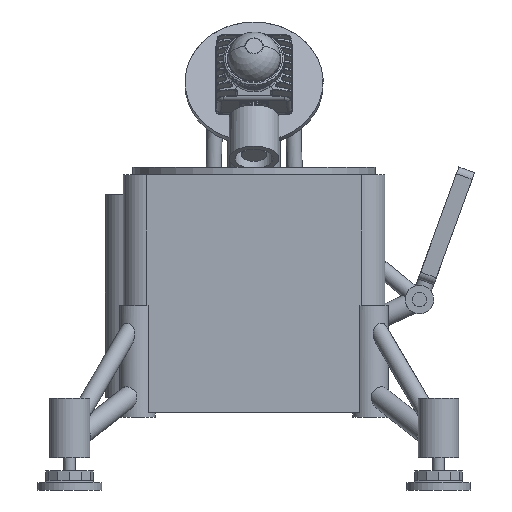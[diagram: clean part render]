
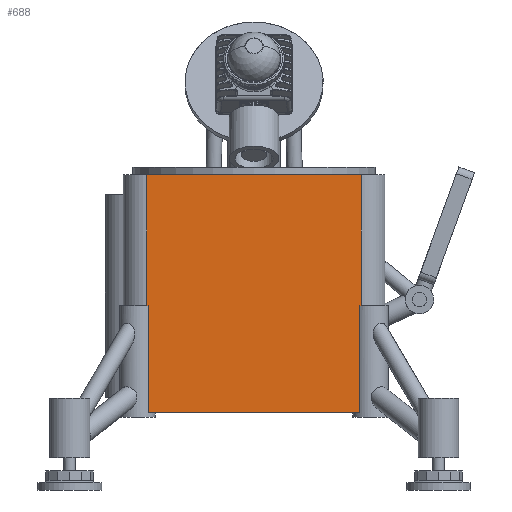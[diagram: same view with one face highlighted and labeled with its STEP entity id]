
A CAD part, left-side view. The second image highlights one B-rep face of the part: STEP entity #688.
In plain terms, the highlighted planar face has unit normal (-1, 0, 0).
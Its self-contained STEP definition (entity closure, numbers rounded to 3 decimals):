
#415 = VERTEX_POINT('',#416);
#416 = CARTESIAN_POINT('',(-130.,-90.,265.));
#425 = EDGE_CURVE('',#426,#415,#428,.T.);
#426 = VERTEX_POINT('',#427);
#427 = CARTESIAN_POINT('',(-130.,-90.,155.));
#428 = LINE('',#429,#430);
#429 = CARTESIAN_POINT('',(-130.,-90.,65.));
#430 = VECTOR('',#431,1.);
#431 = DIRECTION('',(0.,0.,1.));
#500 = VERTEX_POINT('',#501);
#501 = CARTESIAN_POINT('',(-130.,90.,265.));
#508 = EDGE_CURVE('',#415,#500,#509,.T.);
#509 = LINE('',#510,#511);
#510 = CARTESIAN_POINT('',(-130.,-90.,265.));
#511 = VECTOR('',#512,1.);
#512 = DIRECTION('',(-0.,1.,0.));
#667 = EDGE_CURVE('',#668,#426,#670,.T.);
#668 = VERTEX_POINT('',#669);
#669 = CARTESIAN_POINT('',(-130.,-89.,155.));
#670 = LINE('',#671,#672);
#671 = CARTESIAN_POINT('',(-130.,-94.,155.));
#672 = VECTOR('',#673,1.);
#673 = DIRECTION('',(0.,-1.,0.));
#688 = ADVANCED_FACE('',(#689),#732,.F.);
#689 = FACE_BOUND('',#690,.F.);
#690 = EDGE_LOOP('',(#691,#692,#693,#701,#709,#717,#725,#731));
#691 = ORIENTED_EDGE('',*,*,#425,.F.);
#692 = ORIENTED_EDGE('',*,*,#667,.F.);
#693 = ORIENTED_EDGE('',*,*,#694,.F.);
#694 = EDGE_CURVE('',#695,#668,#697,.T.);
#695 = VERTEX_POINT('',#696);
#696 = CARTESIAN_POINT('',(-130.,-89.,65.));
#697 = LINE('',#698,#699);
#698 = CARTESIAN_POINT('',(-130.,-89.,61.));
#699 = VECTOR('',#700,1.);
#700 = DIRECTION('',(0.,0.,1.));
#701 = ORIENTED_EDGE('',*,*,#702,.T.);
#702 = EDGE_CURVE('',#695,#703,#705,.T.);
#703 = VERTEX_POINT('',#704);
#704 = CARTESIAN_POINT('',(-130.,89.,65.));
#705 = LINE('',#706,#707);
#706 = CARTESIAN_POINT('',(-130.,-90.,65.));
#707 = VECTOR('',#708,1.);
#708 = DIRECTION('',(-0.,1.,0.));
#709 = ORIENTED_EDGE('',*,*,#710,.T.);
#710 = EDGE_CURVE('',#703,#711,#713,.T.);
#711 = VERTEX_POINT('',#712);
#712 = CARTESIAN_POINT('',(-130.,89.,155.));
#713 = LINE('',#714,#715);
#714 = CARTESIAN_POINT('',(-130.,89.,61.));
#715 = VECTOR('',#716,1.);
#716 = DIRECTION('',(0.,0.,1.));
#717 = ORIENTED_EDGE('',*,*,#718,.F.);
#718 = EDGE_CURVE('',#719,#711,#721,.T.);
#719 = VERTEX_POINT('',#720);
#720 = CARTESIAN_POINT('',(-130.,90.,155.));
#721 = LINE('',#722,#723);
#722 = CARTESIAN_POINT('',(-130.,4.,155.));
#723 = VECTOR('',#724,1.);
#724 = DIRECTION('',(0.,-1.,0.));
#725 = ORIENTED_EDGE('',*,*,#726,.T.);
#726 = EDGE_CURVE('',#719,#500,#727,.T.);
#727 = LINE('',#728,#729);
#728 = CARTESIAN_POINT('',(-130.,90.,65.));
#729 = VECTOR('',#730,1.);
#730 = DIRECTION('',(0.,0.,1.));
#731 = ORIENTED_EDGE('',*,*,#508,.F.);
#732 = PLANE('',#733);
#733 = AXIS2_PLACEMENT_3D('',#734,#735,#736);
#734 = CARTESIAN_POINT('',(-130.,-90.,65.));
#735 = DIRECTION('',(1.,0.,-0.));
#736 = DIRECTION('',(0.,0.,1.));
